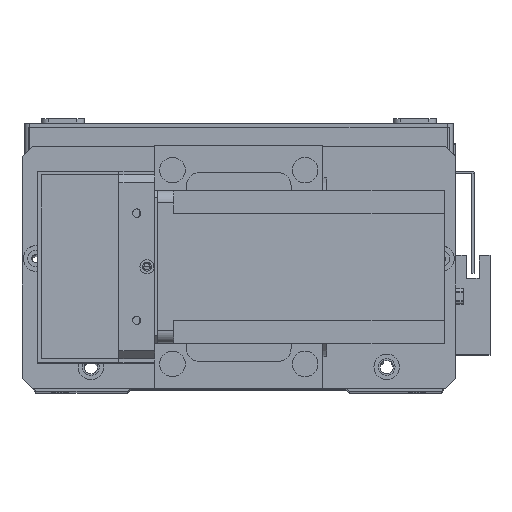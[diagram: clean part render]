
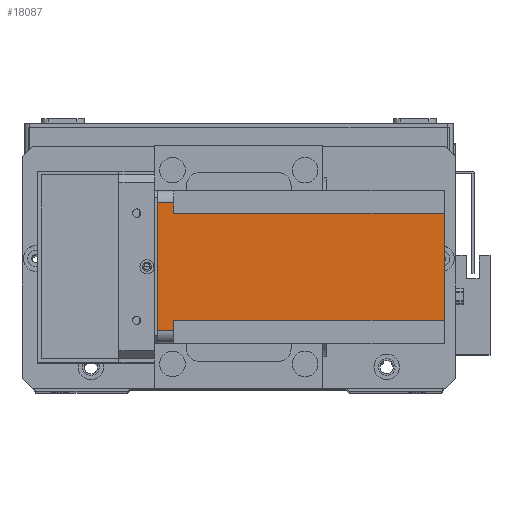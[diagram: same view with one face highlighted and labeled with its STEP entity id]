
A CAD part, top view. The second image highlights one B-rep face of the part: STEP entity #18087.
In plain terms, the highlighted planar face has unit normal (0, 0, 1) as drawn and (-1, 0, 0) by its records, which use the part's own axes.
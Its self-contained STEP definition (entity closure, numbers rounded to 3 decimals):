
#173 = LINE ( 'NONE', #18818, #17658 ) ;
#785 = VERTEX_POINT ( 'NONE', #856 ) ;
#856 = CARTESIAN_POINT ( 'NONE',  ( 0., 9., -112.5 ) ) ;
#2143 = DIRECTION ( 'NONE',  ( 0., 0., -1. ) ) ;
#2506 = EDGE_CURVE ( 'NONE', #22114, #8047, #6131, .T. ) ;
#3160 = VERTEX_POINT ( 'NONE', #13299 ) ;
#3260 = CARTESIAN_POINT ( 'NONE',  ( 0., 5., -112.5 ) ) ;
#4429 = EDGE_CURVE ( 'NONE', #26023, #8047, #173, .T. ) ;
#4482 = CARTESIAN_POINT ( 'NONE',  ( 0., 0., -112.5 ) ) ;
#4581 = DIRECTION ( 'NONE',  ( 0., -1., 0. ) ) ;
#4693 = CARTESIAN_POINT ( 'NONE',  ( 0., 60., -6.5 ) ) ;
#5747 = DIRECTION ( 'NONE',  ( 0., 0., 1. ) ) ;
#6131 = LINE ( 'NONE', #3260, #23628 ) ;
#7801 = ORIENTED_EDGE ( 'NONE', *, *, #2506, .T. ) ;
#8047 = VERTEX_POINT ( 'NONE', #12335 ) ;
#8112 = AXIS2_PLACEMENT_3D ( 'NONE', #4482, #18814, #4581 ) ;
#8359 = VECTOR ( 'NONE', #23492, 1000. ) ;
#8497 = EDGE_CURVE ( 'NONE', #26023, #14331, #30181, .T. ) ;
#8832 = ORIENTED_EDGE ( 'NONE', *, *, #11485, .F. ) ;
#9729 = DIRECTION ( 'NONE',  ( 0., 0., 1. ) ) ;
#10839 = ORIENTED_EDGE ( 'NONE', *, *, #8497, .T. ) ;
#11485 = EDGE_CURVE ( 'NONE', #17327, #785, #27059, .T. ) ;
#12160 = CARTESIAN_POINT ( 'NONE',  ( 0., 55., -6.5 ) ) ;
#12335 = CARTESIAN_POINT ( 'NONE',  ( 0., 5., 0. ) ) ;
#13299 = CARTESIAN_POINT ( 'NONE',  ( 0., 51., -6.5 ) ) ;
#13441 = CARTESIAN_POINT ( 'NONE',  ( 0., 9., -6.5 ) ) ;
#13456 = DIRECTION ( 'NONE',  ( 0., 1., 0. ) ) ;
#13572 = ORIENTED_EDGE ( 'NONE', *, *, #25820, .F. ) ;
#13628 = VECTOR ( 'NONE', #27120, 1000. ) ;
#13809 = LINE ( 'NONE', #4693, #20131 ) ;
#14146 = DIRECTION ( 'NONE',  ( 0., -1., 0. ) ) ;
#14331 = VERTEX_POINT ( 'NONE', #12160 ) ;
#14544 = FACE_OUTER_BOUND ( 'NONE', #24375, .T. ) ;
#14607 = CARTESIAN_POINT ( 'NONE',  ( 0., 51., -112.5 ) ) ;
#14707 = LINE ( 'NONE', #16201, #8359 ) ;
#15212 = CARTESIAN_POINT ( 'NONE',  ( 0., 9., -112.5 ) ) ;
#16201 = CARTESIAN_POINT ( 'NONE',  ( 0., 0., -112.5 ) ) ;
#16452 = EDGE_CURVE ( 'NONE', #30351, #3160, #23444, .T. ) ;
#16498 = ORIENTED_EDGE ( 'NONE', *, *, #18135, .F. ) ;
#17327 = VERTEX_POINT ( 'NONE', #13441 ) ;
#17352 = CARTESIAN_POINT ( 'NONE',  ( 0., 5., -6.5 ) ) ;
#17658 = VECTOR ( 'NONE', #14146, 1000. ) ;
#18087 = ADVANCED_FACE ( 'NONE', ( #14544 ), #28325, .T. ) ;
#18135 = EDGE_CURVE ( 'NONE', #3160, #14331, #13809, .T. ) ;
#18283 = ORIENTED_EDGE ( 'NONE', *, *, #22460, .T. ) ;
#18814 = DIRECTION ( 'NONE',  ( -1., 0., 0. ) ) ;
#18818 = CARTESIAN_POINT ( 'NONE',  ( 0., 0., 0. ) ) ;
#18925 = DIRECTION ( 'NONE',  ( 0., 1., 0. ) ) ;
#20131 = VECTOR ( 'NONE', #18925, 1000. ) ;
#22114 = VERTEX_POINT ( 'NONE', #17352 ) ;
#22460 = EDGE_CURVE ( 'NONE', #30351, #785, #14707, .T. ) ;
#22489 = ORIENTED_EDGE ( 'NONE', *, *, #4429, .F. ) ;
#22961 = CARTESIAN_POINT ( 'NONE',  ( 0., 0., -6.5 ) ) ;
#23444 = LINE ( 'NONE', #24025, #24189 ) ;
#23492 = DIRECTION ( 'NONE',  ( 0., -1., 0. ) ) ;
#23628 = VECTOR ( 'NONE', #5747, 1000. ) ;
#23831 = VECTOR ( 'NONE', #2143, 1000. ) ;
#24025 = CARTESIAN_POINT ( 'NONE',  ( 0., 51., -112.5 ) ) ;
#24189 = VECTOR ( 'NONE', #9729, 1000. ) ;
#24375 = EDGE_LOOP ( 'NONE', ( #13572, #7801, #22489, #10839, #16498, #25192, #18283, #8832 ) ) ;
#25192 = ORIENTED_EDGE ( 'NONE', *, *, #16452, .F. ) ;
#25820 = EDGE_CURVE ( 'NONE', #22114, #17327, #29543, .T. ) ;
#26023 = VERTEX_POINT ( 'NONE', #28862 ) ;
#27059 = LINE ( 'NONE', #15212, #13628 ) ;
#27120 = DIRECTION ( 'NONE',  ( 0., 0., -1. ) ) ;
#28071 = VECTOR ( 'NONE', #13456, 1000. ) ;
#28325 = PLANE ( 'NONE',  #8112 ) ;
#28862 = CARTESIAN_POINT ( 'NONE',  ( 0., 55., 0. ) ) ;
#29543 = LINE ( 'NONE', #22961, #28071 ) ;
#30181 = LINE ( 'NONE', #30690, #23831 ) ;
#30351 = VERTEX_POINT ( 'NONE', #14607 ) ;
#30690 = CARTESIAN_POINT ( 'NONE',  ( 0., 55., -112.5 ) ) ;
